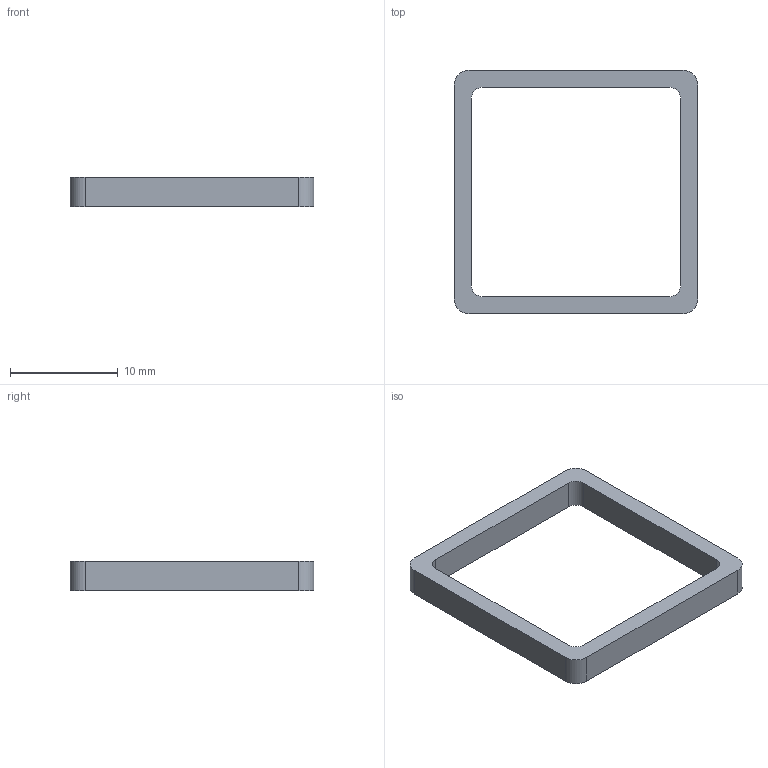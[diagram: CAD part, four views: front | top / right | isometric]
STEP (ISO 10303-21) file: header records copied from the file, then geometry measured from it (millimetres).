
FILE_DESCRIPTION(('Open CASCADE Model'),'2;1');
FILE_NAME('Open CASCADE Shape Model','2026-09-28T16:03:24',('Author'),( 'Open CASCADE'),'Open CASCADE STEP processor 7.9','Open CASCADE 7.9' ,'Unknown');
FILE_SCHEMA(('AUTOMOTIVE_DESIGN { 1 0 10303 214 1 1 1 1 }'));
Length unit declared in the file: millimetre
Products named in the file (1): Open CASCADE STEP translator 7.9 5
Bounding box: 22.6 x 22.6 x 2.7 mm (x, y, z)
Volume: 360.7 mm3; surface area: 709.6 mm2
Topology: 1 solids, 1 shells, 18 faces, 48 edges, 32 vertices
Faces by surface type: plane 10, cylinder 8
Entity records: 1202 total; most frequent: CARTESIAN_POINT 235, DIRECTION 178, ORIENTED_EDGE 96, LINE 96, VECTOR 96, PCURVE 96, DEFINITIONAL_REPRESENTATION 96, EDGE_CURVE 48
